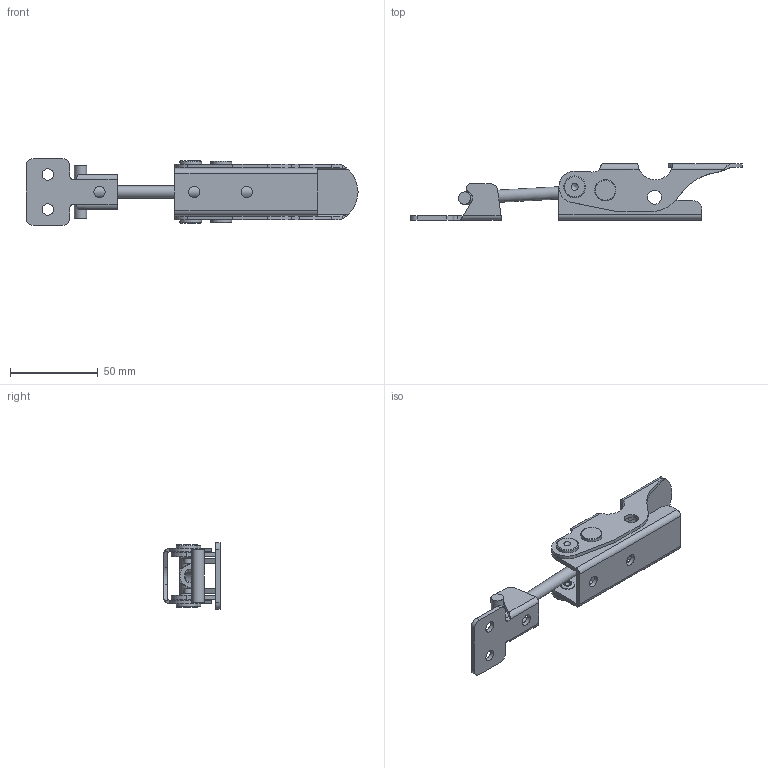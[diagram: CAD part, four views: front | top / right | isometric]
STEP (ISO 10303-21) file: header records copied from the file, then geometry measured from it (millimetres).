
FILE_DESCRIPTION(/* description */ ('STEP AP214'),/* implementation_level */ '2;1');
FILE_NAME(/* name */ 'Toggle Latch_ Steel GN 761-300-T-ST (closed-0)',/* time_stamp */ '2023-09-25T13:23:36+02:00',/* author */ ('License CC BY-ND 4.0'),/* organization */ ('CADENAS'),/* preprocessor_version */ 'ST-DEVELOPER v19.3',/* originating_system */ 'PARTsolutions',/* authorisation */ ' ');
FILE_SCHEMA (('AUTOMOTIVE_DESIGN {1 0 10303 214 3 1 1}'));
Length unit declared in the file: millimetre
Products named in the file (6): Toggle Latch, Steel GN 761-300-T-ST (closed-0); Toggle Latch GN 761-300-T-ST-3; Toggle Latch GN 761-300-T-ST (0-0)-5; Toggle Latch GN 761-300-T-ST (0)-6; Toggle Latch GN 761-300-T-ST (0)-2; Toggle Latch GN 761-300-T-ST-1
Assembly tree (5 placements, depth 2):
  Toggle Latch, Steel GN 761-300-T-ST (closed-0)
    Toggle Latch GN 761-300-T-ST-3
    Toggle Latch GN 761-300-T-ST (0-0)-5
    Toggle Latch GN 761-300-T-ST (0)-6
    Toggle Latch GN 761-300-T-ST (0)-2
    Toggle Latch GN 761-300-T-ST-1
Bounding box: 189.5 x 32.07 x 38 mm (x, y, z)
Volume: 34083.6 mm3; surface area: 30070.7 mm2
Topology: 5 solids, 5 shells, 225 faces, 604 edges, 398 vertices
Faces by surface type: plane 103, cylinder 98, cone 20, torus 4
Full cylindrical faces by diameter (mm): 1 x2, 6.5 x7, 6.55 x2, 6.647 x2, 7 x2, 8 x7, 12 x3, 12.5 x2
Entity records: 7026 total; most frequent: CARTESIAN_POINT 1361, DIRECTION 1172, ORIENTED_EDGE 1076, EDGE_CURVE 538, AXIS2_PLACEMENT_3D 452, VERTEX_POINT 382, FACE_BOUND 318, EDGE_LOOP 314
